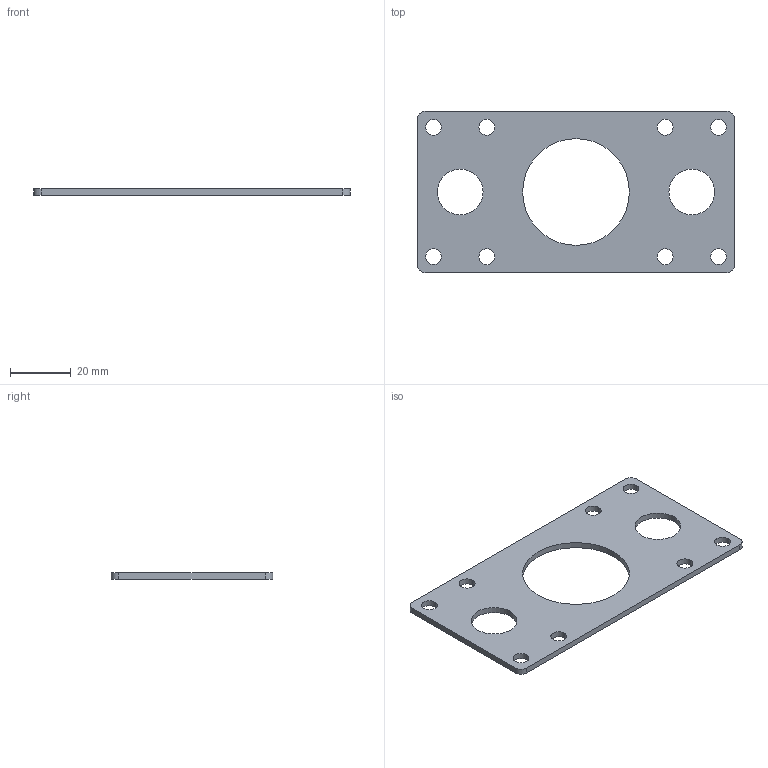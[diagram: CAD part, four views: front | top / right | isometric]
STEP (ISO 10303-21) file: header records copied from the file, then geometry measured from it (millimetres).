
FILE_DESCRIPTION (( 'STEP AP214' ), '1' );
FILE_NAME ('SMBD2-7650.STEP', '2019-10-31T07:17:51', ( '微软用户' ), ( '微软中国' ), 'SwSTEP 2.0', 'SolidWorks 2016', '' );
FILE_SCHEMA (( 'AUTOMOTIVE_DESIGN' ));
Length unit declared in the file: millimetre
Products named in the file (1): SMBD2-7650
Bounding box: 104 x 53 x 2 mm (x, y, z)
Volume: 8042.4 mm3; surface area: 9331.6 mm2
Topology: 1 solids, 1 shells, 32 faces, 90 edges, 60 vertices
Faces by surface type: cylinder 26, plane 6
Entity records: 1144 total; most frequent: DIRECTION 208, CARTESIAN_POINT 183, ORIENTED_EDGE 180, EDGE_CURVE 90, AXIS2_PLACEMENT_3D 85, VERTEX_POINT 60, EDGE_LOOP 54, CIRCLE 52
